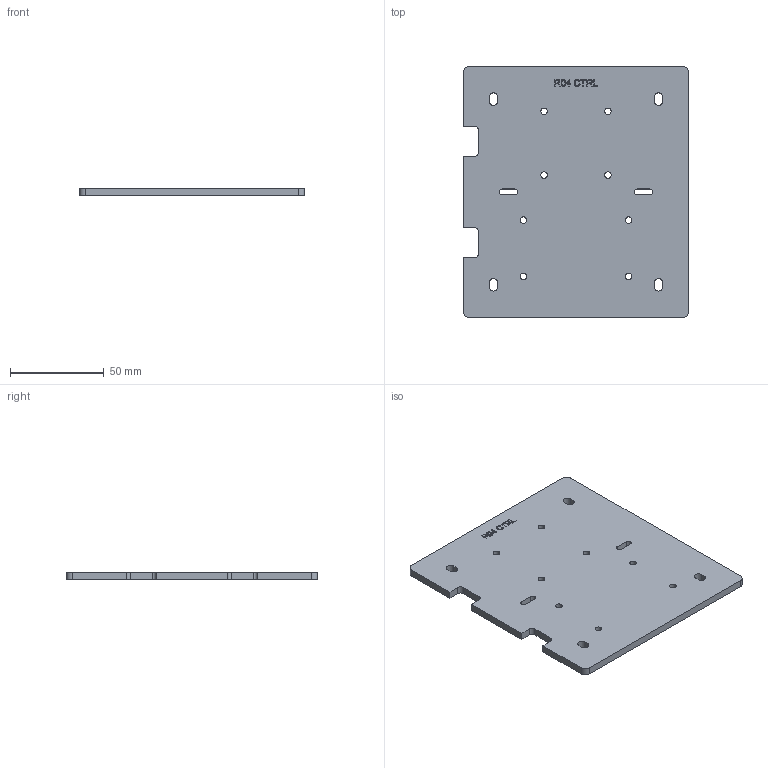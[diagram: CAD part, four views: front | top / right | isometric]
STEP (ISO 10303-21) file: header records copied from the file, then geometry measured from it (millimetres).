
FILE_DESCRIPTION(('Open CASCADE Model'),'2;1');
FILE_NAME('Open CASCADE Shape Model','2026-10-13T11:47:37',('Author'),( 'Open CASCADE'),'Open CASCADE STEP processor 7.8','Open CASCADE 7.8' ,'Unknown');
FILE_SCHEMA(('AUTOMOTIVE_DESIGN { 1 0 10303 214 1 1 1 1 }'));
Length unit declared in the file: millimetre
Products named in the file (1): Open CASCADE STEP translator 7.8 36
Bounding box: 120 x 133.8 x 4 mm (x, y, z)
Volume: 62210.8 mm3; surface area: 34131.4 mm2
Topology: 1 solids, 1 shells, 189 faces, 528 edges, 352 vertices
Faces by surface type: plane 89, extrusion 72, cylinder 28
Full cylindrical faces by diameter (mm): 3.5 x8
Entity records: 14629 total; most frequent: CARTESIAN_POINT 4673, DIRECTION 1546, VECTOR 1184, LINE 1112, ORIENTED_EDGE 1056, PCURVE 1056, DEFINITIONAL_REPRESENTATION 1056, EDGE_CURVE 528
